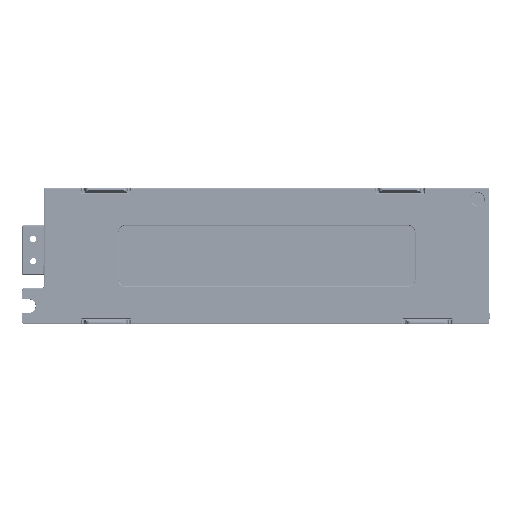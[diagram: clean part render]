
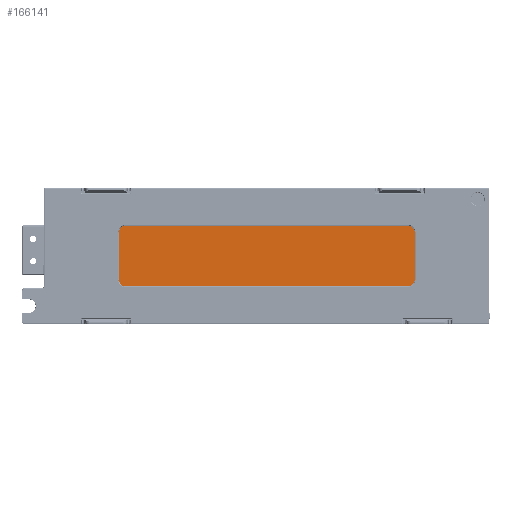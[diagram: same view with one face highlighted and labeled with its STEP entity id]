
A CAD part, front view. The second image highlights one B-rep face of the part: STEP entity #166141.
In plain terms, the highlighted planar face has unit normal (0, -1, 0).
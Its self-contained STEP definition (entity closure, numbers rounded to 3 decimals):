
#21685=CIRCLE('',#623507,2.8);
#21689=CIRCLE('',#623513,2.8);
#21692=CIRCLE('',#623518,2.8);
#21695=CIRCLE('',#623523,2.8);
#166141=ADVANCED_FACE('\X2\96F64EF651E04F554F53\X0\',(#208070),#190003,
 .T.);
#190003=PLANE('',#623547);
#208070=FACE_OUTER_BOUND('',#234394,.T.);
#234394=EDGE_LOOP('',(#289139,#289140,#289141,#289142,#289143,#289144,#289145,
#289146));
#289139=ORIENTED_EDGE('',*,*,#465998,.F.);
#289140=ORIENTED_EDGE('',*,*,#465996,.F.);
#289141=ORIENTED_EDGE('',*,*,#465994,.F.);
#289142=ORIENTED_EDGE('',*,*,#465992,.F.);
#289143=ORIENTED_EDGE('',*,*,#465990,.F.);
#289144=ORIENTED_EDGE('',*,*,#465988,.F.);
#289145=ORIENTED_EDGE('',*,*,#465985,.F.);
#289146=ORIENTED_EDGE('',*,*,#466000,.F.);
#415901=VERTEX_POINT('',#814656);
#415902=VERTEX_POINT('',#814657);
#415903=VERTEX_POINT('',#814662);
#415904=VERTEX_POINT('',#814666);
#415905=VERTEX_POINT('',#814670);
#415906=VERTEX_POINT('',#814674);
#415907=VERTEX_POINT('',#814678);
#415908=VERTEX_POINT('',#814682);
#465985=EDGE_CURVE('',#415901,#415902,#21685,.T.);
#465988=EDGE_CURVE('',#415902,#415903,#526938,.T.);
#465990=EDGE_CURVE('',#415903,#415904,#21689,.T.);
#465992=EDGE_CURVE('',#415904,#415905,#526939,.T.);
#465994=EDGE_CURVE('',#415905,#415906,#21692,.T.);
#465996=EDGE_CURVE('',#415906,#415907,#526940,.T.);
#465998=EDGE_CURVE('',#415907,#415908,#21695,.T.);
#466000=EDGE_CURVE('',#415908,#415901,#526941,.T.);
#526938=LINE('',#814661,#578663);
#526939=LINE('',#814669,#578664);
#526940=LINE('',#814677,#578665);
#526941=LINE('',#814685,#578666);
#578663=VECTOR('',#664013,1.);
#578664=VECTOR('',#664024,1.);
#578665=VECTOR('',#664035,1.);
#578666=VECTOR('',#664046,1.);
#623507=AXIS2_PLACEMENT_3D('',#814655,#664005,#664006);
#623513=AXIS2_PLACEMENT_3D('',#814665,#664018,#664019);
#623518=AXIS2_PLACEMENT_3D('',#814673,#664029,#664030);
#623523=AXIS2_PLACEMENT_3D('',#814681,#664040,#664041);
#623547=AXIS2_PLACEMENT_3D('',#814759,#664123,#664124);
#664005=DIRECTION('',(0.,1.,0.));
#664006=DIRECTION('',(1.,0.,0.));
#664013=DIRECTION('',(0.,0.,1.));
#664018=DIRECTION('',(0.,1.,0.));
#664019=DIRECTION('',(1.,0.,0.));
#664024=DIRECTION('',(1.,0.,0.));
#664029=DIRECTION('',(0.,1.,0.));
#664030=DIRECTION('',(1.,0.,0.));
#664035=DIRECTION('',(0.,0.,-1.));
#664040=DIRECTION('',(0.,1.,0.));
#664041=DIRECTION('',(1.,0.,0.));
#664046=DIRECTION('',(-1.,0.,0.));
#664123=DIRECTION('',(0.,-1.,0.));
#664124=DIRECTION('',(-1.,0.,0.));
#814655=CARTESIAN_POINT('',(-51.,-89.698,11.));
#814656=CARTESIAN_POINT('',(-51.,-89.698,8.2));
#814657=CARTESIAN_POINT('',(-53.8,-89.698,11.));
#814661=CARTESIAN_POINT('',(-53.8,-89.698,20.5));
#814662=CARTESIAN_POINT('',(-53.8,-89.698,30.));
#814665=CARTESIAN_POINT('',(-51.,-89.698,30.));
#814666=CARTESIAN_POINT('',(-51.,-89.698,32.8));
#814669=CARTESIAN_POINT('',(1.789,-89.698,32.8));
#814670=CARTESIAN_POINT('',(63.,-89.698,32.8));
#814673=CARTESIAN_POINT('',(63.,-89.698,30.));
#814674=CARTESIAN_POINT('',(65.8,-89.698,30.));
#814677=CARTESIAN_POINT('',(65.8,-89.698,20.5));
#814678=CARTESIAN_POINT('',(65.8,-89.698,11.));
#814681=CARTESIAN_POINT('',(63.,-89.698,11.));
#814682=CARTESIAN_POINT('',(63.,-89.698,8.2));
#814685=CARTESIAN_POINT('',(-1.324,-89.698,8.2));
#814759=CARTESIAN_POINT('',(6.,-89.698,2.2));
